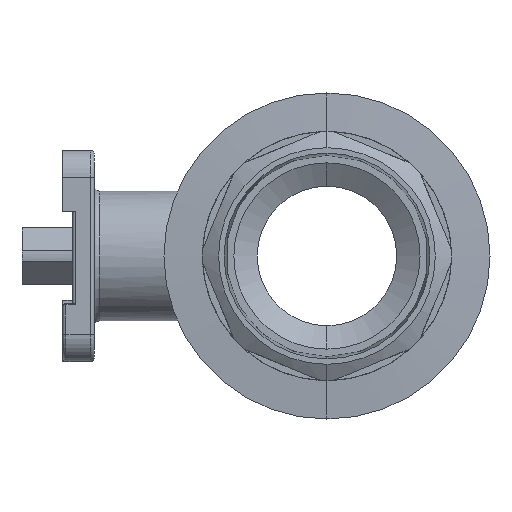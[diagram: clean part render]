
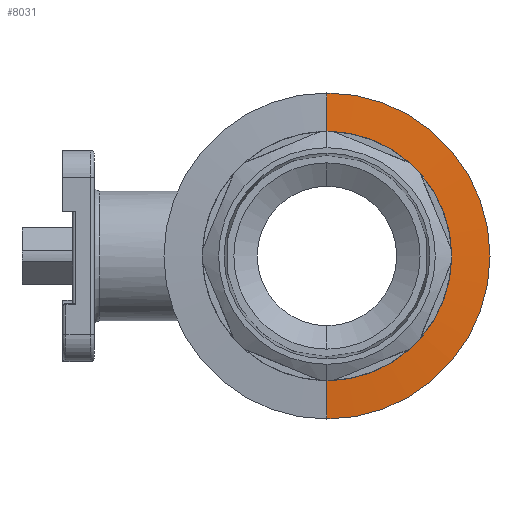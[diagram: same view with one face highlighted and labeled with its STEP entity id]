
A CAD part, left-side view. The second image highlights one B-rep face of the part: STEP entity #8031.
In plain terms, the highlighted conical face has half-angle 86.155 degrees and reference radius 38.227 mm.
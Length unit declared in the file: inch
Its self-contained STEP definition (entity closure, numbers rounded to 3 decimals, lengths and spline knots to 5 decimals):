
#329 = ORIENTED_EDGE ( 'NONE', *, *, #2604, .F. ) ;
#355 = CARTESIAN_POINT ( 'NONE',  ( -1.44264, 0., -1.505 ) ) ;
#412 = VECTOR ( 'NONE', #1111, 39.37008 ) ;
#448 = ORIENTED_EDGE ( 'NONE', *, *, #1375, .T. ) ;
#879 = LINE ( 'NONE', #355, #412 ) ;
#933 = VERTEX_POINT ( 'NONE', #3742 ) ;
#1046 = VERTEX_POINT ( 'NONE', #8932 ) ;
#1111 = DIRECTION ( 'NONE',  ( 0.067, 0., -0.998 ) ) ;
#1375 = EDGE_CURVE ( 'NONE', #8267, #933, #6085, .T. ) ;
#1427 = AXIS2_PLACEMENT_3D ( 'NONE', #9330, #4665, #10117 ) ;
#1450 = DIRECTION ( 'NONE',  ( 0.067, 0., 0.998 ) ) ;
#1518 = AXIS2_PLACEMENT_3D ( 'NONE', #2713, #6627, #4259 ) ;
#2033 = AXIS2_PLACEMENT_3D ( 'NONE', #8771, #8392, #8356 ) ;
#2604 = EDGE_CURVE ( 'NONE', #3006, #1046, #9567, .T. ) ;
#2713 = CARTESIAN_POINT ( 'NONE',  ( -1.44264, 0., 0. ) ) ;
#3006 = VERTEX_POINT ( 'NONE', #8096 ) ;
#3718 = ORIENTED_EDGE ( 'NONE', *, *, #9492, .F. ) ;
#3728 = ORIENTED_EDGE ( 'NONE', *, *, #9666, .T. ) ;
#3742 = CARTESIAN_POINT ( 'NONE',  ( -1.44264, 0., 1.505 ) ) ;
#4259 = DIRECTION ( 'NONE',  ( 0., 0., -1. ) ) ;
#4665 = DIRECTION ( 'NONE',  ( -1., 0., 0. ) ) ;
#5375 = EDGE_LOOP ( 'NONE', ( #3718, #329, #3728, #448 ) ) ;
#5706 = CONICAL_SURFACE ( 'NONE', #1518, 1.505, 1.504 ) ;
#5772 = LINE ( 'NONE', #6232, #7595 ) ;
#6085 = CIRCLE ( 'NONE', #2033, 1.505 ) ;
#6232 = CARTESIAN_POINT ( 'NONE',  ( -1.44264, 0., 1.505 ) ) ;
#6627 = DIRECTION ( 'NONE',  ( 1., 0., 0. ) ) ;
#7595 = VECTOR ( 'NONE', #1450, 39.37008 ) ;
#8015 = FACE_OUTER_BOUND ( 'NONE', #5375, .T. ) ;
#8031 = ADVANCED_FACE ( 'NONE', ( #8015 ), #5706, .T. ) ;
#8096 = CARTESIAN_POINT ( 'NONE',  ( -1.4665, 0., -1.15 ) ) ;
#8267 = VERTEX_POINT ( 'NONE', #9772 ) ;
#8356 = DIRECTION ( 'NONE',  ( 0., 0., 1. ) ) ;
#8392 = DIRECTION ( 'NONE',  ( -1., 0., 0. ) ) ;
#8771 = CARTESIAN_POINT ( 'NONE',  ( -1.44264, 0., 0. ) ) ;
#8932 = CARTESIAN_POINT ( 'NONE',  ( -1.4665, 0., 1.15 ) ) ;
#9330 = CARTESIAN_POINT ( 'NONE',  ( -1.4665, 0., 0. ) ) ;
#9492 = EDGE_CURVE ( 'NONE', #1046, #933, #5772, .T. ) ;
#9567 = CIRCLE ( 'NONE', #1427, 1.15 ) ;
#9666 = EDGE_CURVE ( 'NONE', #3006, #8267, #879, .T. ) ;
#9772 = CARTESIAN_POINT ( 'NONE',  ( -1.44264, 0., -1.505 ) ) ;
#10117 = DIRECTION ( 'NONE',  ( 0., 0., 1. ) ) ;
